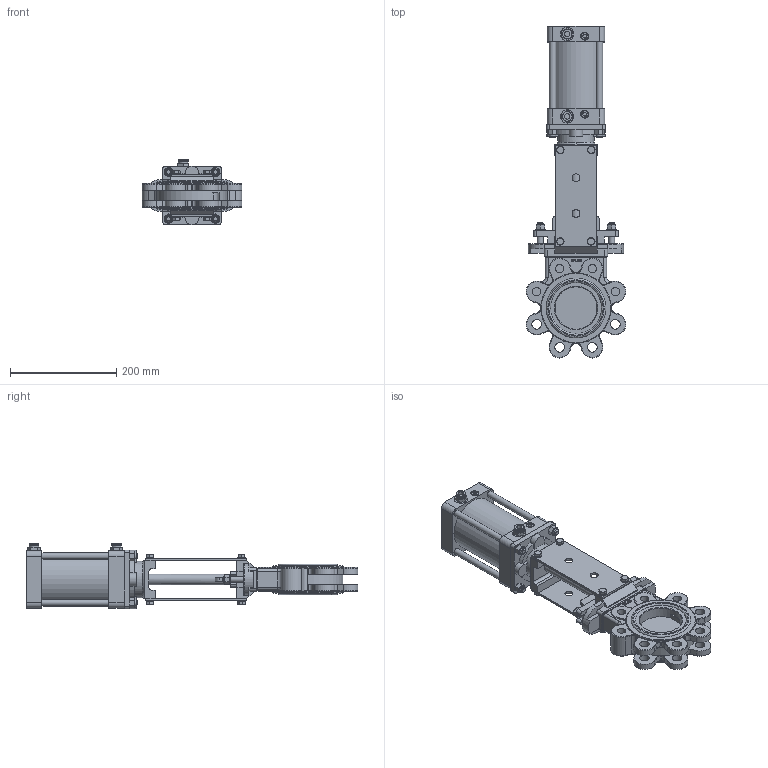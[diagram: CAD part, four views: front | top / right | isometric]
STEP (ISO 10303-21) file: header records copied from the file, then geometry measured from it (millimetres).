
FILE_DESCRIPTION(/* description */ ('D040-07408','CAx-IF Rec.Pracs.---Representation and Presentation of Product Manufacturing Information (PMI)---4.0---2014-10-13'),/* implementation_level */ '2;1');
FILE_NAME(/* name */ '',/* time_stamp */ '2026-03-14T01:08:05+03:00',/* author */ ('DN.RU'),/* organization */ ('DN.RU'),/* preprocessor_version */ 'ST-DEVELOPER v20',/* originating_system */ 'Autodesk Inventor 2025',/* authorisation */ '');
FILE_SCHEMA (('AP242_MANAGED_MODEL_BASED_3D_ENGINEERING_MIM_LF { 1 0 10303 442 1 1 4 }'));
Length unit declared in the file: millimetre
Products named in the file (1): GVKR1331E-2W-Fb-2P
Bounding box: 187.78 x 623.89 x 123 mm (x, y, z)
Volume: 3384501.1 mm3; surface area: 388732.3 mm2
Topology: 1 solids, 9 shells, 1025 faces, 2461 edges, 1545 vertices
Faces by surface type: plane 545, cylinder 249, cone 130, torus 78, bspline 23
Full cylindrical faces by diameter (mm): 7 x2, 8 x8, 8.4 x8, 9 x8, 10 x2, 11 x4, 12 x14, 13 x10, 14 x10, 15 x8, 16 x8, 18 x14, 20 x1, 25 x2, 50 x1, 68.708 x1, 80 x2, 100 x1, 132 x1
Entity records: 31101 total; most frequent: CARTESIAN_POINT 6297, DIRECTION 5014, ORIENTED_EDGE 4914, EDGE_CURVE 2457, AXIS2_PLACEMENT_3D 1901, VERTEX_POINT 1545, LINE 1212, VECTOR 1212
